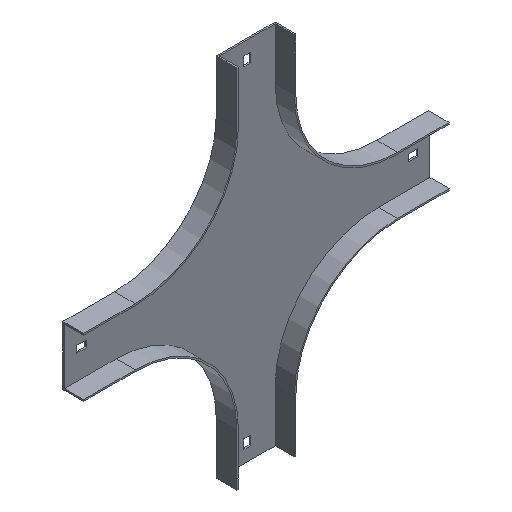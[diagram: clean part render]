
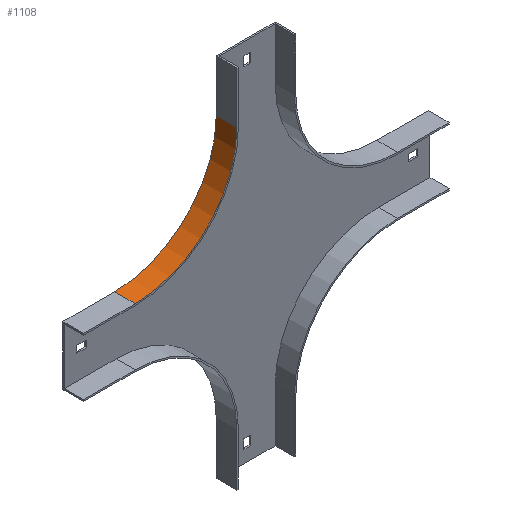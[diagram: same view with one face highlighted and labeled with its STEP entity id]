
A CAD part, isometric view. The second image highlights one B-rep face of the part: STEP entity #1108.
In plain terms, the highlighted cylindrical face has radius 98.5 mm (diameter 197 mm), a partial arc.
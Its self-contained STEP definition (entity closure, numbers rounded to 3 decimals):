
#36 = CARTESIAN_POINT ( 'NONE',  ( -254., -20., 0. ) ) ;
#41 = CARTESIAN_POINT ( 'NONE',  ( -155.5, -20., 0. ) ) ;
#79 = CIRCLE ( 'NONE', #1131, 98.5 ) ;
#85 = EDGE_CURVE ( 'NONE', #1625, #805, #719, .T. ) ;
#97 = CARTESIAN_POINT ( 'NONE',  ( -254., 0., 0. ) ) ;
#100 = CARTESIAN_POINT ( 'NONE',  ( -155.5, 0., 0. ) ) ;
#107 = DIRECTION ( 'NONE',  ( 0., 0., 1. ) ) ;
#146 = EDGE_LOOP ( 'NONE', ( #1111, #1183, #1314, #1590 ) ) ;
#178 = CARTESIAN_POINT ( 'NONE',  ( -254., -20., -98.5 ) ) ;
#179 = DIRECTION ( 'NONE',  ( 0., 0., 1. ) ) ;
#206 = VERTEX_POINT ( 'NONE', #1029 ) ;
#314 = DIRECTION ( 'NONE',  ( 0., 1., 0. ) ) ;
#425 = AXIS2_PLACEMENT_3D ( 'NONE', #36, #314, #179 ) ;
#445 = DIRECTION ( 'NONE',  ( 0., -1., 0. ) ) ;
#452 = AXIS2_PLACEMENT_3D ( 'NONE', #1582, #445, #1556 ) ;
#483 = CARTESIAN_POINT ( 'NONE',  ( -254., -20., -98.5 ) ) ;
#545 = LINE ( 'NONE', #41, #682 ) ;
#622 = DIRECTION ( 'NONE',  ( 0., -1., 0. ) ) ;
#682 = VECTOR ( 'NONE', #694, 1000. ) ;
#694 = DIRECTION ( 'NONE',  ( 0., 1., 0. ) ) ;
#708 = DIRECTION ( 'NONE',  ( 0., 1., 0. ) ) ;
#719 = LINE ( 'NONE', #483, #873 ) ;
#734 = CIRCLE ( 'NONE', #452, 98.5 ) ;
#805 = VERTEX_POINT ( 'NONE', #1171 ) ;
#827 = EDGE_CURVE ( 'NONE', #1625, #206, #734, .T. ) ;
#873 = VECTOR ( 'NONE', #708, 1000. ) ;
#1020 = EDGE_CURVE ( 'NONE', #805, #1320, #79, .T. ) ;
#1029 = CARTESIAN_POINT ( 'NONE',  ( -155.5, -20., 0. ) ) ;
#1108 = ADVANCED_FACE ( 'NONE', ( #1181 ), #1557, .F. ) ;
#1111 = ORIENTED_EDGE ( 'NONE', *, *, #1020, .F. ) ;
#1131 = AXIS2_PLACEMENT_3D ( 'NONE', #97, #622, #107 ) ;
#1134 = EDGE_CURVE ( 'NONE', #206, #1320, #545, .T. ) ;
#1171 = CARTESIAN_POINT ( 'NONE',  ( -254., 0., -98.5 ) ) ;
#1181 = FACE_OUTER_BOUND ( 'NONE', #146, .T. ) ;
#1183 = ORIENTED_EDGE ( 'NONE', *, *, #85, .F. ) ;
#1314 = ORIENTED_EDGE ( 'NONE', *, *, #827, .T. ) ;
#1320 = VERTEX_POINT ( 'NONE', #100 ) ;
#1556 = DIRECTION ( 'NONE',  ( 0., 0., 1. ) ) ;
#1557 = CYLINDRICAL_SURFACE ( 'NONE', #425, 98.5 ) ;
#1582 = CARTESIAN_POINT ( 'NONE',  ( -254., -20., 0. ) ) ;
#1590 = ORIENTED_EDGE ( 'NONE', *, *, #1134, .T. ) ;
#1625 = VERTEX_POINT ( 'NONE', #178 ) ;
